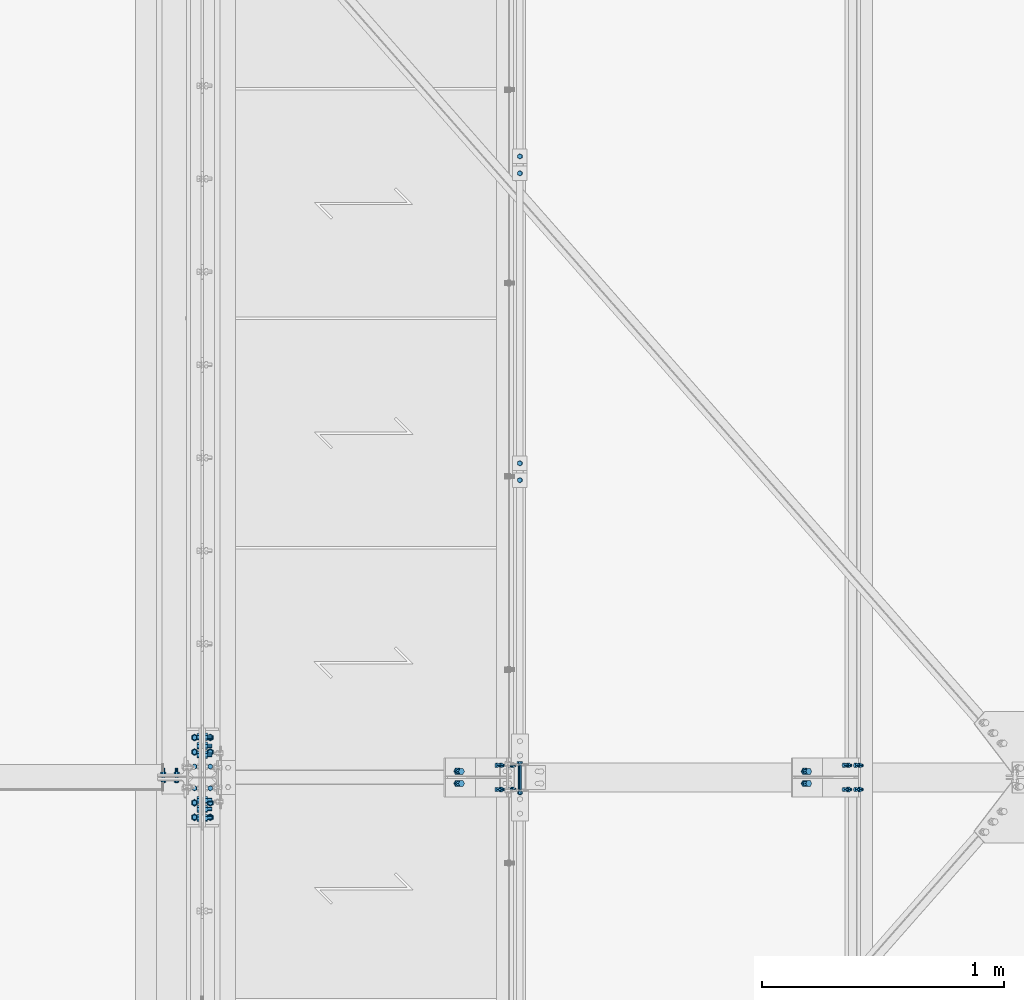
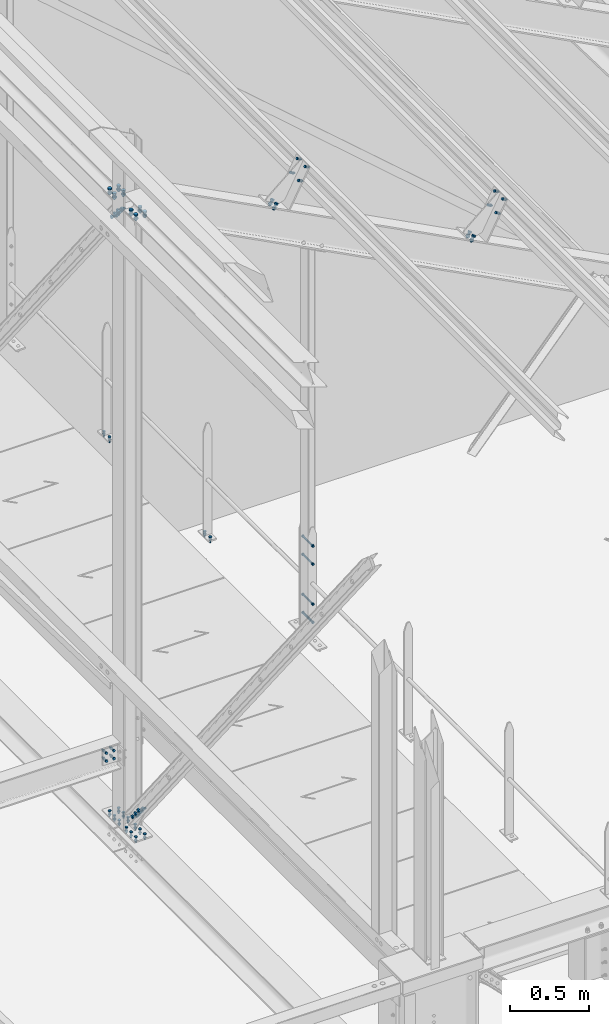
# One storey, part 148 of 362: 15 mechanical fasteners.
"""IFC2X3 building model written with IfcOpenShell, lengths in millimetres."""

from ifc_helpers import new_model, si_unit, frame, origin_with_axes, origin_2d_with_axis, place, context, subcontext, project, spatial, polyline, circle, outline, extrude, source, transform, mapped, material, type_object, element, save


model = new_model("IFC2X3")

# Units and contexts
model_context = context("Model", 3, precision=1e-05, world=origin_with_axes())
body_context = subcontext(model_context, "Body", "Model", "MODEL_VIEW")
ifc_project = project(units=[si_unit("LENGTHUNIT", "METRE", prefix="MILLI"), si_unit("AREAUNIT", "SQUARE_METRE"), si_unit("VOLUMEUNIT", "CUBIC_METRE"), si_unit("MASSUNIT", "GRAM", prefix="KILO"), si_unit("TIMEUNIT", "SECOND"), si_unit("PLANEANGLEUNIT", "RADIAN"), si_unit("SOLIDANGLEUNIT", "STERADIAN"), si_unit("THERMODYNAMICTEMPERATUREUNIT", "DEGREE_CELSIUS"), si_unit("LUMINOUSINTENSITYUNIT", "LUMEN")], contexts=[model_context])

# Site, building, storey
site_placement = place(None, origin_with_axes())
site = spatial("IfcSite", under=ifc_project, at=site_placement, Name="Undefined", CompositionType="ELEMENT")
building_placement = place(site_placement, origin_with_axes())
building = spatial("IfcBuilding", under=site, at=building_placement, Name="Undefined", CompositionType="ELEMENT")
storey_placement = place(building_placement, origin_with_axes())
storey = spatial("IfcBuildingStorey", under=building, at=storey_placement, Name="Undefined", CompositionType="ELEMENT", Elevation=0.0)

# Mechanical fasteners
ifc_material_1 = material(Name="8.8-SB-ZINGUE")
mechanical_fastener_type = type_object("IfcMechanicalFastenerType", Name="Bolt assembly")
shared_shape_1 = source(origin_with_axes(), body_context, "Body", "SweptSolid", [
    extrude(circle(Radius=9.0, at=origin_2d_with_axis()), frame((0.0, -10.9000000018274, 0.0), z_axis=(0.0, 1.0, 0.0), x_axis=(1.0, 0.0, 0.0)), (0.0, 0.0, 1.0), 6.0),
    extrude(circle(Radius=9.0, at=origin_2d_with_axis()), frame((0.0, 4.9000000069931, 0.0), z_axis=(0.0, 1.0, 0.0), x_axis=(1.0, 0.0, 0.0)), (0.0, 0.0, 1.0), 6.1),
    extrude(circle(Radius=9.0, at=origin_2d_with_axis()), frame((0.0, -3.99999923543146, 0.0), z_axis=(0.0, 1.0, 0.0), x_axis=(1.0, 0.0, 0.0)), (0.0, 0.0, 1.0), 8.0),
    extrude(outline(polyline([(13.85640646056, 0.0), (6.92820323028, 12.0000000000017), (-6.92820323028, 12.0000000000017), (-13.85640646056, 0.0), (-6.92820323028, -12.0000000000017), (6.92820323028, -12.0000000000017), (13.85640646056, 0.0)])), frame((0.0, -21.5600000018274, 0.0), z_axis=(0.0, 1.0, 0.0), x_axis=(1.0, 0.0, 0.0)), (0.0, 0.0, 1.0), 10.56),
    extrude(circle(Radius=8.0, at=origin_2d_with_axis()), frame((0.0, -11.0000000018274, 0.0), z_axis=(0.0, 1.0, 0.0), x_axis=(1.0, 0.0, 0.0)), (0.0, 0.0, 1.0), 50.0),
    extrude(outline(polyline([(15.3344231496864, 0.0), (7.6672115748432, 13.2800000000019), (-7.6672115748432, 13.2800000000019), (-15.3344231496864, 0.0), (-7.6672115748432, -13.2800000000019), (7.6672115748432, -13.2800000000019), (15.3344231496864, 0.0)])), frame((0.0, 11.0000000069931, 0.0), z_axis=(0.0, 1.0, 0.0), x_axis=(1.0, 0.0, 0.0)), (0.0, 0.0, 1.0), 10.56),
])
for number, where, z_axis, x_axis, name in (
    (1, (12680.0, 3893.26062918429, 11919.5161498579), (0.0, -0.783225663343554, -0.621737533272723), (0.0, 0.621737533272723, -0.783225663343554), "Bolt assembly"),
    (2, (12680.0, 3706.73945184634, 7367.48391445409), (0.0, 0.783226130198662, 0.6217369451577), (0.0, -0.621736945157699, 0.783226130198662), "Bolt assembly"),
):
    element("IfcMechanicalFastener", number, at=place(storey_placement, frame(where, z_axis=z_axis, x_axis=x_axis)), inside=storey, type_object=mechanical_fastener_type, material=ifc_material_1, Name=name, NominalDiameter=16.0, NominalLength=50.0, context=body_context, shape_type="MappedRepresentation", body=[
        mapped(shared_shape_1, transform((0.0, 0.0, 0.0))),
        mapped(shared_shape_1, transform((60.0, 0.0, 0.0))),
        mapped(shared_shape_1, transform((120.0, 0.0, 0.0))),
    ])
shared_shape_2 = source(origin_with_axes(), body_context, "Body", "SweptSolid", [
    extrude(circle(Radius=7.0, at=origin_2d_with_axis()), frame((0.0, -10.0000010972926, 0.0), z_axis=(0.0, 1.0, 0.0), x_axis=(1.0, 0.0, 0.0)), (0.0, 0.0, 1.0), 10.1),
    extrude(outline(polyline([(10.39230484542, 0.0), (5.19615242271, 9.00000000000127), (-5.19615242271, 9.00000000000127), (-10.39230484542, 0.0), (-5.19615242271, -9.00000000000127), (5.19615242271, -9.00000000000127), (10.39230484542, 0.0)])), frame((0.0, -17.92, 0.0), z_axis=(0.0, 1.0, 0.0), x_axis=(1.0, 0.0, 0.0)), (0.0, 0.0, 1.0), 7.92),
    extrude(circle(Radius=6.0, at=origin_2d_with_axis()), frame((0.0, -10.0000010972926, 0.0), z_axis=(0.0, 1.0, 0.0), x_axis=(1.0, 0.0, 0.0)), (0.0, 0.0, 1.0), 40.0),
    extrude(outline(polyline([(11.5008173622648, 0.0), (5.7504086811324, 9.96000000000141), (-5.7504086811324, 9.96000000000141), (-11.5008173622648, 0.0), (-5.7504086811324, -9.96000000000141), (5.7504086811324, -9.96000000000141), (11.5008173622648, 0.0)])), frame((0.0, 0.0, 0.0), z_axis=(0.0, 1.0, 0.0), x_axis=(1.0, 0.0, 0.0)), (0.0, 0.0, 1.0), 7.92),
])
for number, where, z_axis, x_axis, name in (
    (3, (13993.9998861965, 5030.00344717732, 8240.00000373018), (-1.0, 0.0, 0.0), (0.0, 1.0, 0.0), "Bolt assembly"),
    (4, (13993.9998872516, 6300.00344717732, 8240.00000285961), (-1.0, 0.0, 0.0), (0.0, 1.0, 0.0), "Bolt assembly"),
):
    element("IfcMechanicalFastener", number, at=place(storey_placement, frame(where, z_axis=z_axis, x_axis=x_axis)), inside=storey, type_object=mechanical_fastener_type, material=ifc_material_1, Name=name, NominalDiameter=12.0, NominalLength=40.0, context=body_context, shape_type="MappedRepresentation", body=[
        mapped(shared_shape_2, transform((0.0, 0.0, 0.0))),
        mapped(shared_shape_2, transform((70.0, -2.91038304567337e-11, 2.18278728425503e-10))),
    ])
ifc_material_2 = material(Name="6.8")
shared_shape_3 = source(origin_with_axes(), body_context, "Body", "SweptSolid", [
    extrude(circle(Radius=7.0, at=origin_2d_with_axis()), frame((0.0, -49.9999013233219, 0.0), z_axis=(0.0, 1.0, 0.0), x_axis=(1.0, 0.0, 0.0)), (0.0, 0.0, 1.0), 100.0),
    extrude(circle(Radius=7.0, at=origin_2d_with_axis()), frame((0.0, -57.3998951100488, 0.0), z_axis=(0.0, 1.0, 0.0), x_axis=(1.0, 0.0, 0.0)), (0.0, 0.0, 1.0), 5.0),
    extrude(circle(Radius=7.0, at=origin_2d_with_axis()), frame((0.0, 52.4001048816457, 0.0), z_axis=(0.0, 1.0, 0.0), x_axis=(1.0, 0.0, 0.0)), (0.0, 0.0, 1.0), 5.1),
    extrude(outline(polyline([(10.96965511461, 0.0), (5.484827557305, 9.50000000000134), (-5.484827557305, 9.50000000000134), (-10.96965511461, 0.0), (-5.484827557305, -9.50000000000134), (5.484827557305, -9.50000000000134), (10.96965511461, 0.0)])), frame((0.0, -65.4998951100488, 0.0), z_axis=(0.0, 1.0, 0.0), x_axis=(1.0, 0.0, 0.0)), (0.0, 0.0, 1.0), 8.0),
    extrude(circle(Radius=6.0, at=origin_2d_with_axis()), frame((0.0, -57.4998951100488, 0.0), z_axis=(0.0, 1.0, 0.0), x_axis=(1.0, 0.0, 0.0)), (0.0, 0.0, 1.0), 130.0),
    extrude(outline(polyline([(10.39230484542, 0.0), (5.19615242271, 9.00000000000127), (-5.19615242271, 9.00000000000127), (-10.39230484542, 0.0), (-5.19615242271, -9.00000000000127), (5.19615242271, -9.00000000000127), (10.39230484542, 0.0)])), frame((0.0, 57.5001048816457, 0.0), z_axis=(0.0, 1.0, 0.0), x_axis=(1.0, 0.0, 0.0)), (0.0, 0.0, 1.0), 10.8),
])
for number, where, z_axis, x_axis, name in (
    (5, (13993.9998855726, 3800.00011396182, 8450.17500705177), (0.0, 0.0, 1.0), (-1.0, 0.0, 0.0), "Bolt assembly"),
    (6, (13993.9998855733, 3800.00011430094, 8897.42500405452), (0.0, 0.0, 1.0), (-1.0, 0.0, 0.0), "Bolt assembly"),
):
    element("IfcMechanicalFastener", number, at=place(storey_placement, frame(where, z_axis=z_axis, x_axis=x_axis)), inside=storey, type_object=mechanical_fastener_type, material=ifc_material_2, Name=name, NominalDiameter=12.0, NominalLength=130.0, context=body_context, shape_type="MappedRepresentation", body=[
        mapped(shared_shape_3, transform((0.0, 6.3664629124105e-11, -70.0))),
        mapped(shared_shape_3, transform((0.0, -6.3664629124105e-11, 70.0))),
    ])
shared_shape_4 = source(origin_with_axes(), body_context, "Body", "SweptSolid", [
    extrude(circle(Radius=7.0, at=origin_2d_with_axis()), frame((0.0, -0.100011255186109, 0.0), z_axis=(0.0, 1.0, 0.0), x_axis=(1.0, 0.0, 0.0)), (0.0, 0.0, 1.0), 1.6),
    extrude(circle(Radius=7.0, at=origin_2d_with_axis()), frame((0.0, -9.9, 0.0), z_axis=(0.0, 1.0, 0.0), x_axis=(1.0, 0.0, 0.0)), (0.0, 0.0, 1.0), 10.0),
    extrude(outline(polyline([(10.39230484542, 0.0), (5.19615242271, 9.00000000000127), (-5.19615242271, 9.00000000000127), (-10.39230484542, 0.0), (-5.19615242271, -9.00000000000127), (5.19615242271, -9.00000000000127), (10.39230484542, 0.0)])), frame((0.0, -17.92, 0.0), z_axis=(0.0, 1.0, 0.0), x_axis=(1.0, 0.0, 0.0)), (0.0, 0.0, 1.0), 7.92),
    extrude(circle(Radius=6.0, at=origin_2d_with_axis()), frame((0.0, -10.0000010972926, 0.0), z_axis=(0.0, 1.0, 0.0), x_axis=(1.0, 0.0, 0.0)), (0.0, 0.0, 1.0), 30.0),
    extrude(outline(polyline([(11.5008173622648, 0.0), (5.7504086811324, 9.96000000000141), (-5.7504086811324, 9.96000000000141), (-11.5008173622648, 0.0), (-5.7504086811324, -9.96000000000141), (5.7504086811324, -9.96000000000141), (11.5008173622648, 0.0)])), frame((0.0, 1.50001896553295, 0.0), z_axis=(0.0, 1.0, 0.0), x_axis=(1.0, 0.0, 0.0)), (0.0, 0.0, 1.0), 7.92),
])
for number, where, z_axis, x_axis, name in (
    (7, (13910.5352247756, 3800.0000596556, 11798.7689104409), (0.0, 1.0, 0.0), (0.463528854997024, 6.99999093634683e-09, 0.886081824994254), "Bolt assembly"),
    (8, (15347.8352673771, 3800.0000596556, 11046.8866202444), (0.0, 1.0, 0.0), (0.463528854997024, 6.99999093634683e-09, 0.886081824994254), "Bolt assembly"),
):
    element("IfcMechanicalFastener", number, at=place(storey_placement, frame(where, z_axis=z_axis, x_axis=x_axis)), inside=storey, type_object=mechanical_fastener_type, material=ifc_material_1, Name=name, NominalDiameter=12.0, NominalLength=30.0, context=body_context, shape_type="MappedRepresentation", body=[
        mapped(shared_shape_4, transform((0.0, 0.0, -50.0))),
        mapped(shared_shape_4, transform((102.00000000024, -2.51020537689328e-10, -50.0))),
        mapped(shared_shape_4, transform((0.0, 0.0, 50.0))),
        mapped(shared_shape_4, transform((102.00000000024, -2.51020537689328e-10, 50.0))),
    ])
shared_shape_5 = source(origin_with_axes(), body_context, "Body", "SweptSolid", [
    extrude(circle(Radius=9.0, at=origin_2d_with_axis()), frame((0.0, -0.10007666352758, 0.0), z_axis=(0.0, 1.0, 0.0), x_axis=(1.0, 0.0, 0.0)), (0.0, 0.0, 1.0), 9.9),
    extrude(circle(Radius=9.0, at=origin_2d_with_axis()), frame((0.0, -9.9, 0.0), z_axis=(0.0, 1.0, 0.0), x_axis=(1.0, 0.0, 0.0)), (0.0, 0.0, 1.0), 10.0),
    extrude(outline(polyline([(13.85640646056, 0.0), (6.92820323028, 12.0000000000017), (-6.92820323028, 12.0000000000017), (-13.85640646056, 0.0), (-6.92820323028, -12.0000000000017), (6.92820323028, -12.0000000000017), (13.85640646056, 0.0)])), frame((0.0, -20.5600000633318, 0.0), z_axis=(0.0, 1.0, 0.0), x_axis=(1.0, 0.0, 0.0)), (0.0, 0.0, 1.0), 10.56),
    extrude(circle(Radius=8.0, at=origin_2d_with_axis()), frame((0.0, -10.0000010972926, 0.0), z_axis=(0.0, 1.0, 0.0), x_axis=(1.0, 0.0, 0.0)), (0.0, 0.0, 1.0), 40.0),
    extrude(outline(polyline([(15.3344231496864, 0.0), (7.6672115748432, 13.2800000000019), (-7.6672115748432, 13.2800000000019), (-15.3344231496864, 0.0), (-7.6672115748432, -13.2800000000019), (7.6672115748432, -13.2800000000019), (15.3344231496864, 0.0)])), frame((0.0, 9.7999015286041, 0.0), z_axis=(0.0, 1.0, 0.0), x_axis=(1.0, 0.0, 0.0)), (0.0, 0.0, 1.0), 10.56),
])
mechanical_fastener_1_placement = place(storey_placement, frame((13742.7711979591, 3800.00003751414, 11650.6600426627), z_axis=(0.0, 1.0, 0.0), x_axis=(0.886081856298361, 3.500000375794e-08, -0.463528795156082)))
element("IfcMechanicalFastener", 9, at=mechanical_fastener_1_placement, inside=storey, type_object=mechanical_fastener_type, material=ifc_material_1, Name="Bolt assembly", NominalDiameter=16.0, NominalLength=40.0, context=body_context, shape_type="MappedRepresentation", body=[
    mapped(shared_shape_5, transform((0.0, 0.0, -25.0))),
    mapped(shared_shape_5, transform((0.0, 0.0, 25.0))),
])
shared_shape_6 = source(origin_with_axes(), body_context, "Body", "SweptSolid", [
    extrude(circle(Radius=9.0, at=origin_2d_with_axis()), frame((0.0, -0.100011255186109, 0.0), z_axis=(0.0, 1.0, 0.0), x_axis=(1.0, 0.0, 0.0)), (0.0, 0.0, 1.0), 9.9),
    extrude(circle(Radius=9.0, at=origin_2d_with_axis()), frame((0.0, -9.9, 0.0), z_axis=(0.0, 1.0, 0.0), x_axis=(1.0, 0.0, 0.0)), (0.0, 0.0, 1.0), 10.0),
    extrude(outline(polyline([(13.85640646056, 0.0), (6.92820323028, 12.0000000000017), (-6.92820323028, 12.0000000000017), (-13.85640646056, 0.0), (-6.92820323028, -12.0000000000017), (6.92820323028, -12.0000000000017), (13.85640646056, 0.0)])), frame((0.0, -20.5600000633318, 0.0), z_axis=(0.0, 1.0, 0.0), x_axis=(1.0, 0.0, 0.0)), (0.0, 0.0, 1.0), 10.56),
    extrude(circle(Radius=8.0, at=origin_2d_with_axis()), frame((0.0, -10.0000010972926, 0.0), z_axis=(0.0, 1.0, 0.0), x_axis=(1.0, 0.0, 0.0)), (0.0, 0.0, 1.0), 40.0),
    extrude(outline(polyline([(15.3344231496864, 0.0), (7.6672115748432, 13.2800000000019), (-7.6672115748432, 13.2800000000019), (-15.3344231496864, 0.0), (-7.6672115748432, -13.2800000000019), (7.6672115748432, -13.2800000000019), (15.3344231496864, 0.0)])), frame((0.0, 9.80000019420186, 0.0), z_axis=(0.0, 1.0, 0.0), x_axis=(1.0, 0.0, 0.0)), (0.0, 0.0, 1.0), 10.56),
])
mechanical_fastener_2_placement = place(storey_placement, frame((15180.0712405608, 3800.00003751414, 10898.7777524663), z_axis=(0.0, 1.0, 0.0), x_axis=(0.886081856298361, 3.500000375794e-08, -0.463528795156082)))
element("IfcMechanicalFastener", 10, at=mechanical_fastener_2_placement, inside=storey, type_object=mechanical_fastener_type, material=ifc_material_1, Name="Bolt assembly", NominalDiameter=16.0, NominalLength=40.0, context=body_context, shape_type="MappedRepresentation", body=[
    mapped(shared_shape_6, transform((0.0, 0.0, -25.0))),
    mapped(shared_shape_6, transform((0.0, 0.0, 25.0))),
])
shared_shape_7 = source(origin_with_axes(), body_context, "Body", "SweptSolid", [
    extrude(circle(Radius=7.0, at=origin_2d_with_axis()), frame((0.0, -2.80024280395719, 0.0), z_axis=(0.0, 1.0, 0.0), x_axis=(1.0, 0.0, 0.0)), (0.0, 0.0, 1.0), 5.6),
    extrude(circle(Radius=7.0, at=origin_2d_with_axis()), frame((0.0, -12.9001594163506, 0.0), z_axis=(0.0, 1.0, 0.0), x_axis=(1.0, 0.0, 0.0)), (0.0, 0.0, 1.0), 10.0),
    extrude(circle(Radius=7.0, at=origin_2d_with_axis()), frame((0.0, 2.90070287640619, 0.0), z_axis=(0.0, 1.0, 0.0), x_axis=(1.0, 0.0, 0.0)), (0.0, 0.0, 1.0), 10.1),
    extrude(outline(polyline([(10.39230484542, 0.0), (5.19615242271, 9.00000000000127), (-5.19615242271, 9.00000000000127), (-10.39230484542, 0.0), (-5.19615242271, -9.00000000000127), (5.19615242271, -9.00000000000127), (10.39230484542, 0.0)])), frame((0.0, -20.9201594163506, 0.0), z_axis=(0.0, 1.0, 0.0), x_axis=(1.0, 0.0, 0.0)), (0.0, 0.0, 1.0), 7.92),
    extrude(circle(Radius=6.0, at=origin_2d_with_axis()), frame((0.0, -13.0001594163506, 0.0), z_axis=(0.0, 1.0, 0.0), x_axis=(1.0, 0.0, 0.0)), (0.0, 0.0, 1.0), 50.0),
    extrude(outline(polyline([(11.5008173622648, 0.0), (5.7504086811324, 9.96000000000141), (-5.7504086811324, 9.96000000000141), (-11.5008173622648, 0.0), (-5.7504086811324, -9.96000000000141), (5.7504086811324, -9.96000000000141), (11.5008173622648, 0.0)])), frame((0.0, 13.0007028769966, 0.0), z_axis=(0.0, 1.0, 0.0), x_axis=(1.0, 0.0, 0.0)), (0.0, 0.0, 1.0), 7.92),
])
mechanical_fastener_3_placement = place(storey_placement, frame((12518.4999999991, 3800.00577604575, 7830.53232332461), z_axis=(7.58071938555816e-11, 0.0314107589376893, 0.999506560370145), x_axis=(0.999999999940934, -1.08559999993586e-05, 5.27999997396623e-07)))
element("IfcMechanicalFastener", 11, at=mechanical_fastener_3_placement, inside=storey, type_object=mechanical_fastener_type, material=ifc_material_1, Name="Bolt assembly", NominalDiameter=12.0, NominalLength=50.0, context=body_context, shape_type="MappedRepresentation", body=[
    mapped(shared_shape_7, transform((0.0, 0.0, -30.0))),
    mapped(shared_shape_7, transform((55.0000000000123, 3.45607986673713e-11, -30.0000000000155))),
    mapped(shared_shape_7, transform((0.0, 0.0, 30.0))),
    mapped(shared_shape_7, transform((54.9999999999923, 3.45607986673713e-11, 29.9999999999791))),
])
shared_shape_8 = source(origin_with_axes(), body_context, "Body", "SweptSolid", [
    extrude(circle(Radius=9.0, at=origin_2d_with_axis()), frame((0.0, -8.40001950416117, 0.0), z_axis=(0.0, 1.0, 0.0), x_axis=(1.0, 0.0, 0.0)), (0.0, 0.0, 1.0), 8.5),
    extrude(circle(Radius=9.0, at=origin_2d_with_axis()), frame((0.0, -0.100011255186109, 0.0), z_axis=(0.0, 1.0, 0.0), x_axis=(1.0, 0.0, 0.0)), (0.0, 0.0, 1.0), 10.1),
    extrude(outline(polyline([(13.85640646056, 0.0), (6.92820323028, 12.0000000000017), (-6.92820323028, 12.0000000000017), (-13.85640646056, 0.0), (-6.92820323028, -12.0000000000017), (6.92820323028, -12.0000000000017), (13.85640646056, 0.0)])), frame((0.0, -19.0599999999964, 0.0), z_axis=(0.0, 1.0, 0.0), x_axis=(1.0, 0.0, 0.0)), (0.0, 0.0, 1.0), 10.56),
    extrude(circle(Radius=8.0, at=origin_2d_with_axis()), frame((0.0, -8.5, 0.0), z_axis=(0.0, 1.0, 0.0), x_axis=(1.0, 0.0, 0.0)), (0.0, 0.0, 1.0), 40.0),
    extrude(outline(polyline([(15.3344231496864, 0.0), (7.6672115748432, 13.2800000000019), (-7.6672115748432, 13.2800000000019), (-15.3344231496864, 0.0), (-7.6672115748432, -13.2800000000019), (7.6672115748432, -13.2800000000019), (15.3344231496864, 0.0)])), frame((0.0, 10.0000000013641, 0.0), z_axis=(0.0, 1.0, 0.0), x_axis=(1.0, 0.0, 0.0)), (0.0, 0.0, 1.0), 10.56),
])
mechanical_fastener_4_placement = place(storey_placement, frame((12680.0000000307, 3694.99692211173, 12037.0), z_axis=(1.0, 0.0, 0.0), x_axis=(0.0, -1.0, 0.0)))
element("IfcMechanicalFastener", 12, at=mechanical_fastener_4_placement, inside=storey, type_object=mechanical_fastener_type, material=ifc_material_1, Name="Bolt assembly", NominalDiameter=16.0, NominalLength=40.0, context=body_context, shape_type="MappedRepresentation", body=[
    mapped(shared_shape_8, transform((0.0, 0.0, 32.5))),
    mapped(shared_shape_8, transform((60.0, 0.0, 32.5))),
    mapped(shared_shape_8, transform((0.0, 0.0, -32.5))),
    mapped(shared_shape_8, transform((60.0, 0.0, -32.5))),
])
mechanical_fastener_5_placement = place(storey_placement, frame((12680.0000000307, 3905.0, 12037.0), z_axis=(-1.0, 0.0, 0.0), x_axis=(0.0, 1.0, 0.0)))
element("IfcMechanicalFastener", 13, at=mechanical_fastener_5_placement, inside=storey, type_object=mechanical_fastener_type, material=ifc_material_1, Name="Bolt assembly", NominalDiameter=16.0, NominalLength=40.0, context=body_context, shape_type="MappedRepresentation", body=[
    mapped(shared_shape_8, transform((0.0, 0.0, -32.5))),
    mapped(shared_shape_8, transform((60.0, 0.0, -32.5))),
    mapped(shared_shape_8, transform((0.0, 0.0, 32.5))),
    mapped(shared_shape_8, transform((60.0, 0.0, 32.5))),
])
shared_shape_9 = source(origin_with_axes(), body_context, "Body", "SweptSolid", [
    extrude(circle(Radius=6.0, at=origin_2d_with_axis()), frame((0.0, -0.100011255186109, 0.0), z_axis=(0.0, 1.0, 0.0), x_axis=(1.0, 0.0, 0.0)), (0.0, 0.0, 1.0), 10.1),
    extrude(circle(Radius=6.0, at=origin_2d_with_axis()), frame((0.0, -9.9, 0.0), z_axis=(0.0, 1.0, 0.0), x_axis=(1.0, 0.0, 0.0)), (0.0, 0.0, 1.0), 10.0),
    extrude(outline(polyline([(10.39230484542, 0.0), (5.19615242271, 9.00000000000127), (-5.19615242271, 9.00000000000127), (-10.39230484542, 0.0), (-5.19615242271, -9.00000000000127), (5.19615242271, -9.00000000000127), (10.39230484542, 0.0)])), frame((0.0, -17.92, 0.0), z_axis=(0.0, 1.0, 0.0), x_axis=(1.0, 0.0, 0.0)), (0.0, 0.0, 1.0), 7.92),
    extrude(circle(Radius=6.0, at=origin_2d_with_axis()), frame((0.0, -10.0000010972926, 0.0), z_axis=(0.0, 1.0, 0.0), x_axis=(1.0, 0.0, 0.0)), (0.0, 0.0, 1.0), 40.0),
    extrude(outline(polyline([(11.5008173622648, 0.0), (5.7504086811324, 9.96000000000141), (-5.7504086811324, 9.96000000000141), (-11.5008173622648, 0.0), (-5.7504086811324, -9.96000000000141), (5.7504086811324, -9.96000000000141), (11.5008173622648, 0.0)])), frame((0.0, 10.0000000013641, 0.0), z_axis=(0.0, 1.0, 0.0), x_axis=(1.0, 0.0, 0.0)), (0.0, 0.0, 1.0), 7.92),
])
mechanical_fastener_6_placement = place(storey_placement, frame((12680.0, 3964.99692211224, 7249.99996843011), z_axis=(1.0, 0.0, 0.0), x_axis=(0.0, -1.0, 0.0)))
element("IfcMechanicalFastener", 14, at=mechanical_fastener_6_placement, inside=storey, type_object=mechanical_fastener_type, material=ifc_material_1, Name="Bolt assembly", NominalDiameter=12.0, NominalLength=40.0, context=body_context, shape_type="MappedRepresentation", body=[
    mapped(shared_shape_9, transform((0.0, 0.0, 32.5))),
    mapped(shared_shape_9, transform((60.0, 0.0, 32.5))),
    mapped(shared_shape_9, transform((120.0, 0.0, 32.5))),
    mapped(shared_shape_9, transform((0.0, 0.0, -32.5))),
    mapped(shared_shape_9, transform((60.0, 0.0, -32.5))),
    mapped(shared_shape_9, transform((120.0, 0.0, -32.5))),
])
mechanical_fastener_7_placement = place(storey_placement, frame((12680.0, 3635.00000000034, 7249.9999684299), z_axis=(-1.0, 0.0, 0.0), x_axis=(0.0, 1.0, 0.0)))
element("IfcMechanicalFastener", 15, at=mechanical_fastener_7_placement, inside=storey, type_object=mechanical_fastener_type, material=ifc_material_1, Name="Bolt assembly", NominalDiameter=12.0, NominalLength=40.0, context=body_context, shape_type="MappedRepresentation", body=[
    mapped(shared_shape_9, transform((0.0, 0.0, -32.5))),
    mapped(shared_shape_9, transform((60.0, 0.0, -32.5))),
    mapped(shared_shape_9, transform((120.0, 0.0, -32.5))),
    mapped(shared_shape_9, transform((0.0, 0.0, 32.5))),
    mapped(shared_shape_9, transform((60.0, 0.0, 32.5))),
    mapped(shared_shape_9, transform((120.0, 0.0, 32.5))),
])

save(model, "model.ifc")
